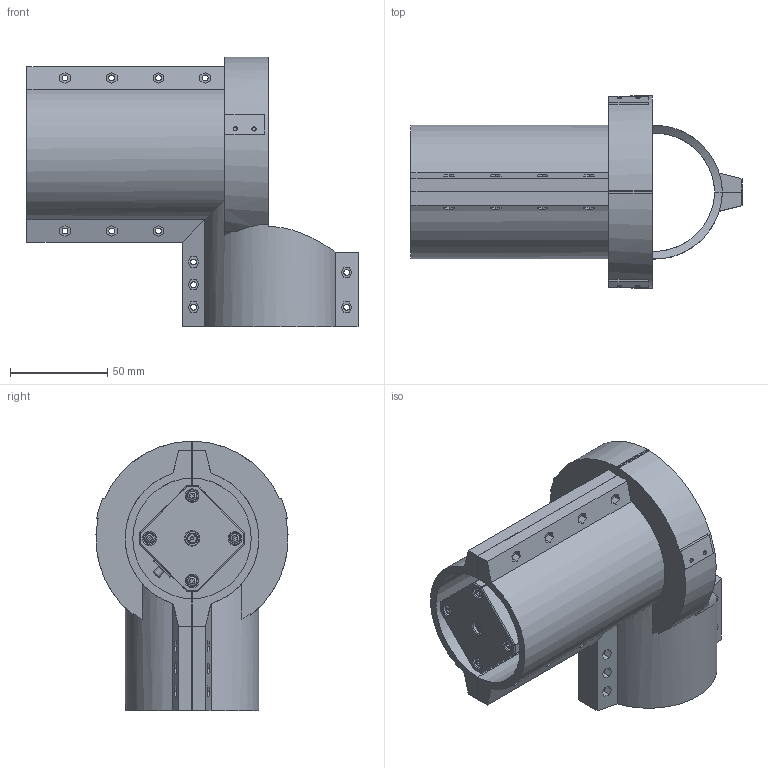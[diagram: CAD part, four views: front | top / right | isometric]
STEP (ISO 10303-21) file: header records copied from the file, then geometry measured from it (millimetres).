
FILE_DESCRIPTION(('Open CASCADE Model'),'2;1');
FILE_NAME('Open CASCADE Shape Model','2024-11-11T14:26:35',('Author'),( 'Open CASCADE'),'Open CASCADE STEP processor 7.6','Open CASCADE 7.6' ,'Unknown');
FILE_SCHEMA(('AUTOMOTIVE_DESIGN { 1 0 10303 214 1 1 1 1 }'));
Length unit declared in the file: millimetre
Products named in the file (6): Open CASCADE STEP translator 7.6 1; Open CASCADE STEP translator 7.6 1.1; Open CASCADE STEP translator 7.6 1.2; Open CASCADE STEP translator 7.6 1.3; Open CASCADE STEP translator 7.6 1.4; Open CASCADE STEP translator 7.6 1.5
Assembly tree (5 placements, depth 2):
  Open CASCADE STEP translator 7.6 1
    Open CASCADE STEP translator 7.6 1.1
    Open CASCADE STEP translator 7.6 1.2
    Open CASCADE STEP translator 7.6 1.3
    Open CASCADE STEP translator 7.6 1.4
    Open CASCADE STEP translator 7.6 1.5
Bounding box: 170.4 x 98.57 x 138.54 mm (x, y, z)
Volume: 473686.5 mm3; surface area: 150415.5 mm2
Topology: 5 solids, 5 shells, 983 faces, 2576 edges, 1661 vertices
Faces by surface type: plane 628, cylinder 264, torus 32, bspline 24, sphere 24, cone 7, revolution 4
Full cylindrical faces by diameter (mm): 1.004 x2, 1.005 x2, 2.161 x4, 3.029 x1, 3.03 x24, 3.181 x1, 3.3 x4, 3.9 x4, 4 x1, 4.8 x12, 5 x9, 5.2 x6, 5.6 x1, 6 x8, 7 x1, 8 x2, 10 x1, 12 x1, 20 x1, 21 x1, 25 x1, 30 x1, 41.019 x1, 42 x2, 56.8 x1, 60 x1, 85 x1
Entity records: 82867 total; most frequent: CARTESIAN_POINT 32344, DIRECTION 9217, LINE 5687, VECTOR 5687, ORIENTED_EDGE 5088, PCURVE 5088, DEFINITIONAL_REPRESENTATION 5088, EDGE_CURVE 2544
